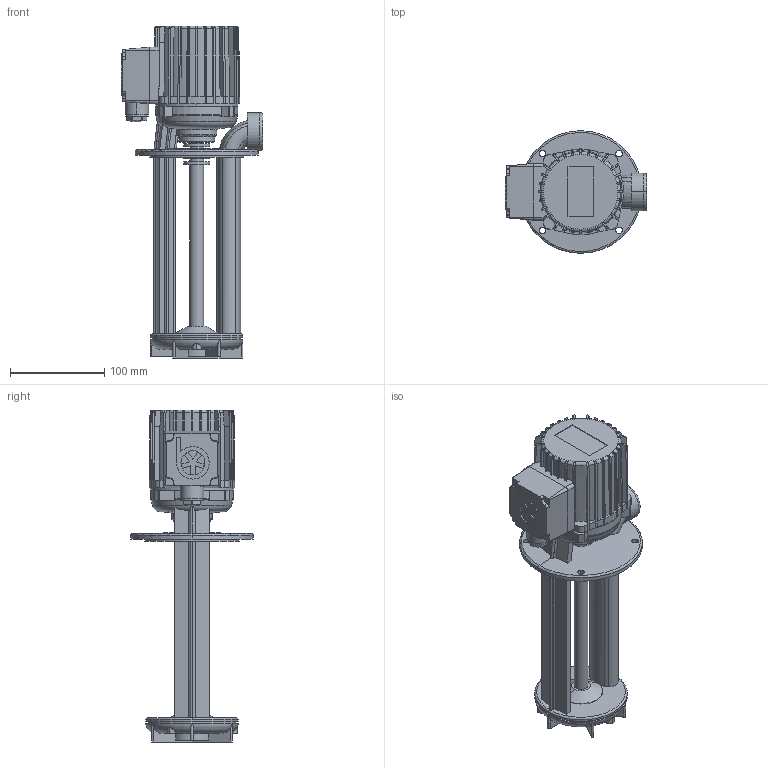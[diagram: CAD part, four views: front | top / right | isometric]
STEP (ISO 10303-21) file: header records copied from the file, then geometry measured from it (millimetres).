
FILE_DESCRIPTION(('no description'),'unknown implementation level');
FILE_NAME('TB25_220_13.stp',' ',('K. H. Brinkmann GmbH & Co. KG'),('CADClick - KiM GmbH - www.kimweb.de'),'unknown preprocess','ACIS','unknown authorization');
FILE_SCHEMA(('automotive_design'));
Length unit declared in the file: millimetre
Products named in the file (3): 1; 2; 3
Bounding box: 150 x 130 x 352 mm (x, y, z)
Volume: 1321381.7 mm3; surface area: 204376.6 mm2
Topology: 3 solids, 3 shells, 620 faces, 1658 edges, 1066 vertices
Faces by surface type: plane 307, cylinder 160, torus 85, cone 68
Entity records: 43186 total; most frequent: CARTESIAN_POINT 9335, STYLED_ITEM 3347, PRESENTATION_STYLE_ASSIGNMENT 3347, COLOUR_RGB 3347, ORIENTED_EDGE 3316, DIRECTION 3109, EDGE_CURVE 1658, CURVE_STYLE 1658
